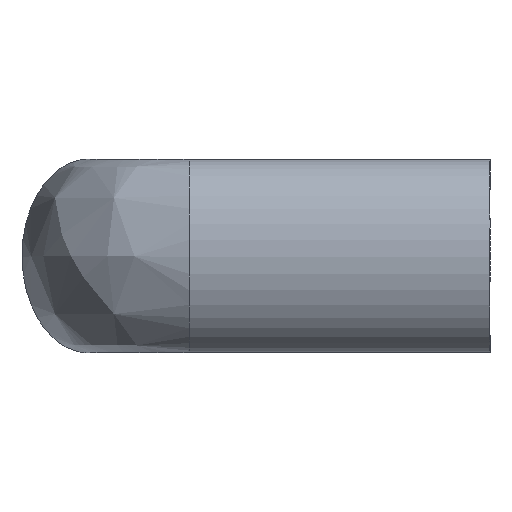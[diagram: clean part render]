
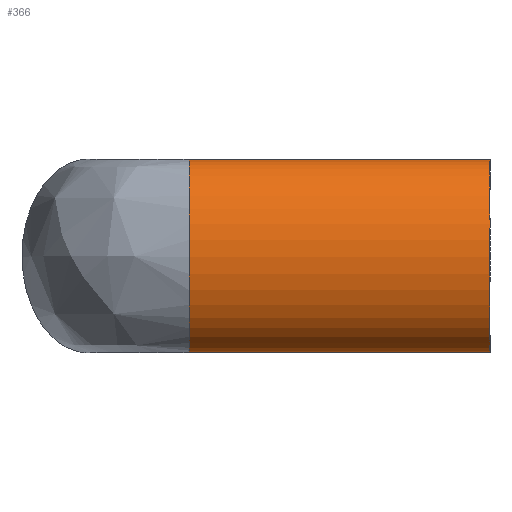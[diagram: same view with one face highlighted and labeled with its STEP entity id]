
A CAD part, left-side view. The second image highlights one B-rep face of the part: STEP entity #366.
In plain terms, the highlighted free-form (B-spline) face has degree [3, 1] with [4, 2] control points.
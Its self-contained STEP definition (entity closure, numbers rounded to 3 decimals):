
#36 = CARTESIAN_POINT ( 'NONE',  ( -200., -60., 14.5 ) ) ;
#55 =( BOUNDED_CURVE ( )  B_SPLINE_CURVE ( 3, ( #36, #282, #296, #518 ),
 .UNSPECIFIED., .F., .T. ) 
 B_SPLINE_CURVE_WITH_KNOTS ( ( 4, 4 ),
 ( 3.142, 6.283 ),
 .UNSPECIFIED. ) 
 CURVE ( )  GEOMETRIC_REPRESENTATION_ITEM ( )  RATIONAL_B_SPLINE_CURVE ( ( 1., 0.333, 0.333, 1. ) ) 
 REPRESENTATION_ITEM ( '' )  );
#69 = EDGE_CURVE ( 'NONE', #215, #579, #576, .T. ) ;
#167 = EDGE_CURVE ( 'NONE', #394, #579, #55, .T. ) ;
#187 = CARTESIAN_POINT ( 'NONE',  ( -200., -15., -14.5 ) ) ;
#215 = VERTEX_POINT ( 'NONE', #443 ) ;
#220 = ORIENTED_EDGE ( 'NONE', *, *, #236, .F. ) ;
#223 = DIRECTION ( 'NONE',  ( 0., -1., 0. ) ) ;
#228 = ORIENTED_EDGE ( 'NONE', *, *, #539, .T. ) ;
#233 = CARTESIAN_POINT ( 'NONE',  ( -220., -15., 14.5 ) ) ;
#236 = EDGE_CURVE ( 'NONE', #475, #394, #440, .T. ) ;
#245 = ORIENTED_EDGE ( 'NONE', *, *, #167, .F. ) ;
#276 = FACE_OUTER_BOUND ( 'NONE', #406, .T. ) ;
#282 = CARTESIAN_POINT ( 'NONE',  ( -220., -60., 14.5 ) ) ;
#295 =( BOUNDED_SURFACE ( )  B_SPLINE_SURFACE ( 3, 1, ( 
 ( #587, #591 ),
 ( #233, #585 ),
 ( #472, #611 ),
 ( #384, #650 ) ),
 .UNSPECIFIED., .F., .F., .T. ) 
 B_SPLINE_SURFACE_WITH_KNOTS ( ( 4, 4 ),
 ( 2, 2 ),
 ( 0., 1. ),
 ( 0., 1. ),
 .UNSPECIFIED. ) 
 GEOMETRIC_REPRESENTATION_ITEM ( )  RATIONAL_B_SPLINE_SURFACE ( (
 ( 1., 1.),
 ( 0.333, 0.333),
 ( 0.333, 0.333),
 ( 1., 1.) ) ) 
 REPRESENTATION_ITEM ( '' )  SURFACE ( )  );
#296 = CARTESIAN_POINT ( 'NONE',  ( -220., -60., -14.5 ) ) ;
#297 = CARTESIAN_POINT ( 'NONE',  ( -200., -60., 14.5 ) ) ;
#366 = ADVANCED_FACE ( 'NONE', ( #276 ), #295, .T. ) ;
#372 = VECTOR ( 'NONE', #491, 1000. ) ;
#384 = CARTESIAN_POINT ( 'NONE',  ( -200., -15., -14.5 ) ) ;
#394 = VERTEX_POINT ( 'NONE', #297 ) ;
#406 = EDGE_LOOP ( 'NONE', ( #220, #228, #488, #245 ) ) ;
#408 = CARTESIAN_POINT ( 'NONE',  ( -200., -15., 14.5 ) ) ;
#440 = LINE ( 'NONE', #408, #372 ) ;
#443 = CARTESIAN_POINT ( 'NONE',  ( -200., -15., -14.5 ) ) ;
#472 = CARTESIAN_POINT ( 'NONE',  ( -220., -15., -14.5 ) ) ;
#475 = VERTEX_POINT ( 'NONE', #515 ) ;
#488 = ORIENTED_EDGE ( 'NONE', *, *, #69, .T. ) ;
#491 = DIRECTION ( 'NONE',  ( 0., -1., 0. ) ) ;
#515 = CARTESIAN_POINT ( 'NONE',  ( -200., -15., 14.5 ) ) ;
#518 = CARTESIAN_POINT ( 'NONE',  ( -200., -60., -14.5 ) ) ;
#526 =( BOUNDED_CURVE ( )  B_SPLINE_CURVE ( 3, ( #572, #566, #651, #654 ),
 .UNSPECIFIED., .F., .T. ) 
 B_SPLINE_CURVE_WITH_KNOTS ( ( 4, 4 ),
 ( 3.142, 6.283 ),
 .UNSPECIFIED. ) 
 CURVE ( )  GEOMETRIC_REPRESENTATION_ITEM ( )  RATIONAL_B_SPLINE_CURVE ( ( 1., 0.333, 0.333, 1. ) ) 
 REPRESENTATION_ITEM ( '' )  );
#530 = CARTESIAN_POINT ( 'NONE',  ( -200., -60., -14.5 ) ) ;
#539 = EDGE_CURVE ( 'NONE', #475, #215, #526, .T. ) ;
#566 = CARTESIAN_POINT ( 'NONE',  ( -220., -15., 14.5 ) ) ;
#572 = CARTESIAN_POINT ( 'NONE',  ( -200., -15., 14.5 ) ) ;
#576 = LINE ( 'NONE', #187, #632 ) ;
#579 = VERTEX_POINT ( 'NONE', #530 ) ;
#585 = CARTESIAN_POINT ( 'NONE',  ( -220., -60., 14.5 ) ) ;
#587 = CARTESIAN_POINT ( 'NONE',  ( -200., -15., 14.5 ) ) ;
#591 = CARTESIAN_POINT ( 'NONE',  ( -200., -60., 14.5 ) ) ;
#611 = CARTESIAN_POINT ( 'NONE',  ( -220., -60., -14.5 ) ) ;
#632 = VECTOR ( 'NONE', #223, 1000. ) ;
#650 = CARTESIAN_POINT ( 'NONE',  ( -200., -60., -14.5 ) ) ;
#651 = CARTESIAN_POINT ( 'NONE',  ( -220., -15., -14.5 ) ) ;
#654 = CARTESIAN_POINT ( 'NONE',  ( -200., -15., -14.5 ) ) ;
